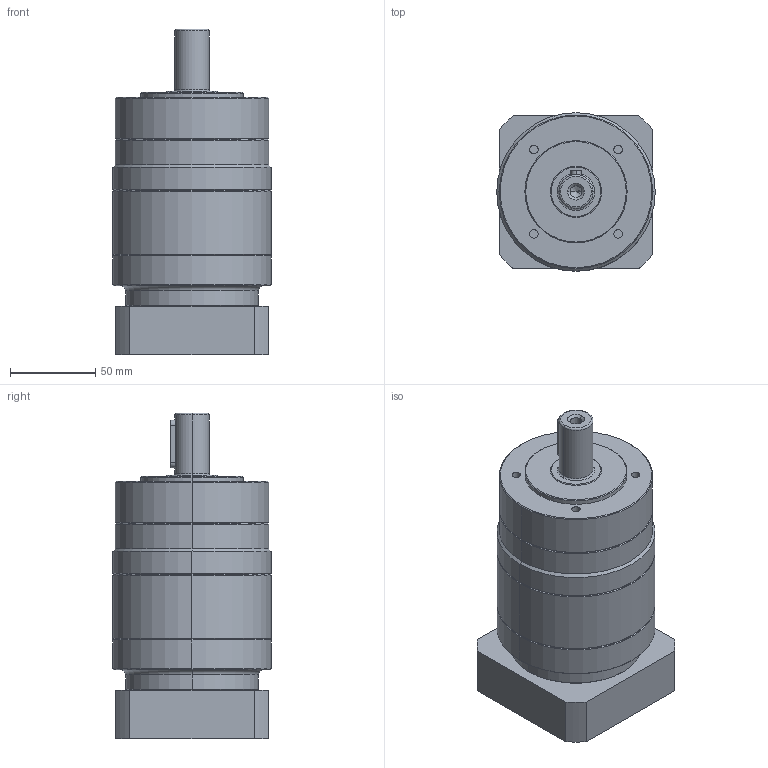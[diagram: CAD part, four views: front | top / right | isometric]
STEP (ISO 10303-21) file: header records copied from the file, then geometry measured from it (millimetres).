
FILE_DESCRIPTION (( 'STEP AP214' ), '1' );
FILE_NAME ('FE090-L2-S2-P2 19-70-90-M6.STEP', '2024-02-03T01:38:22', ( '微软用户' ), ( '微软中国' ), 'SwSTEP 2.0', 'SolidWorks 2018', '' );
FILE_SCHEMA (( 'AUTOMOTIVE_DESIGN' ));
Length unit declared in the file: millimetre
Products named in the file (1): FE090-L2-S2-P2 19-70-90-M6
Bounding box: 93 x 93 x 191 mm (x, y, z)
Volume: 966909.8 mm3; surface area: 79528.7 mm2
Topology: 1 solids, 1 shells, 109 faces, 227 edges, 137 vertices
Faces by surface type: cylinder 49, cone 26, plane 26, torus 8
Entity records: 3009 total; most frequent: DIRECTION 571, CARTESIAN_POINT 535, ORIENTED_EDGE 450, AXIS2_PLACEMENT_3D 239, EDGE_CURVE 225, VERTEX_POINT 137, CIRCLE 129, EDGE_LOOP 128
